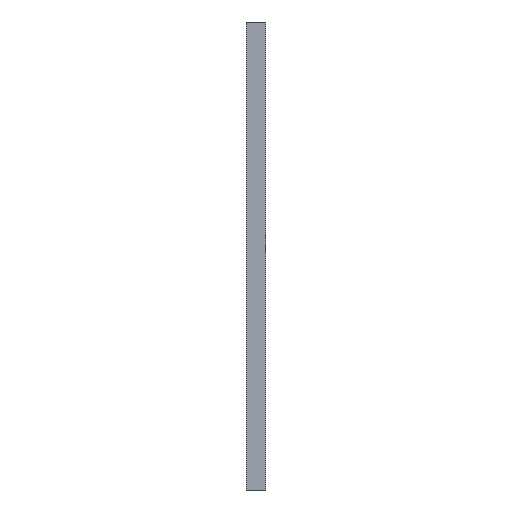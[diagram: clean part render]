
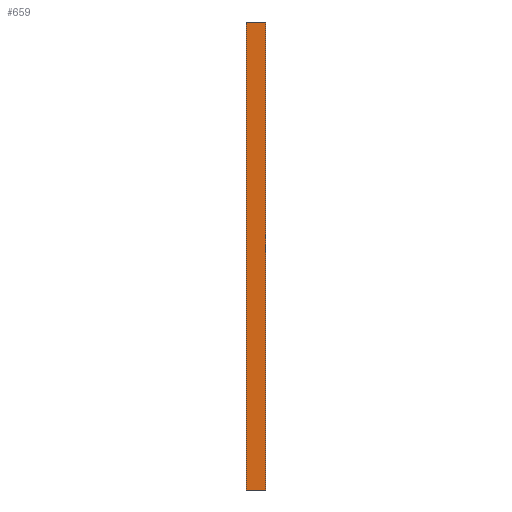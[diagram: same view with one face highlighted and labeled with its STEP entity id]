
A CAD part, left-side view. The second image highlights one B-rep face of the part: STEP entity #659.
In plain terms, the highlighted planar face has unit normal (-1, 0, 0).
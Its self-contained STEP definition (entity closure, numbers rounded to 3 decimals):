
#45 = LINE ( 'NONE', #1010, #138 ) ;
#71 = PLANE ( 'NONE',  #167 ) ;
#138 = VECTOR ( 'NONE', #662, 1000. ) ;
#167 = AXIS2_PLACEMENT_3D ( 'NONE', #249, #420, #1036 ) ;
#180 = VERTEX_POINT ( 'NONE', #754 ) ;
#249 = CARTESIAN_POINT ( 'NONE',  ( -203., -17., -369. ) ) ;
#335 = LINE ( 'NONE', #593, #607 ) ;
#350 = VERTEX_POINT ( 'NONE', #449 ) ;
#405 = CARTESIAN_POINT ( 'NONE',  ( -203., -17., -369. ) ) ;
#420 = DIRECTION ( 'NONE',  ( -1., 0., 0. ) ) ;
#449 = CARTESIAN_POINT ( 'NONE',  ( -203., 0., 40. ) ) ;
#455 = CARTESIAN_POINT ( 'NONE',  ( -203., -17., 40. ) ) ;
#570 = EDGE_CURVE ( 'NONE', #180, #350, #45, .T. ) ;
#582 = EDGE_CURVE ( 'NONE', #929, #913, #843, .T. ) ;
#593 = CARTESIAN_POINT ( 'NONE',  ( -203., -17., 40. ) ) ;
#607 = VECTOR ( 'NONE', #1126, 1000. ) ;
#647 = VECTOR ( 'NONE', #780, 1000. ) ;
#659 = ADVANCED_FACE ( 'NONE', ( #1030 ), #71, .T. ) ;
#662 = DIRECTION ( 'NONE',  ( 0., 0., 1. ) ) ;
#712 = EDGE_LOOP ( 'NONE', ( #1067, #775, #908, #800 ) ) ;
#754 = CARTESIAN_POINT ( 'NONE',  ( -203., 0., -369. ) ) ;
#768 = VECTOR ( 'NONE', #834, 1000. ) ;
#775 = ORIENTED_EDGE ( 'NONE', *, *, #891, .F. ) ;
#780 = DIRECTION ( 'NONE',  ( 0., 0., 1. ) ) ;
#800 = ORIENTED_EDGE ( 'NONE', *, *, #1002, .T. ) ;
#834 = DIRECTION ( 'NONE',  ( 0., 1., 0. ) ) ;
#843 = LINE ( 'NONE', #405, #647 ) ;
#891 = EDGE_CURVE ( 'NONE', #929, #180, #990, .T. ) ;
#908 = ORIENTED_EDGE ( 'NONE', *, *, #582, .T. ) ;
#912 = CARTESIAN_POINT ( 'NONE',  ( -203., -17., -369. ) ) ;
#913 = VERTEX_POINT ( 'NONE', #455 ) ;
#929 = VERTEX_POINT ( 'NONE', #935 ) ;
#935 = CARTESIAN_POINT ( 'NONE',  ( -203., -17., -369. ) ) ;
#990 = LINE ( 'NONE', #912, #768 ) ;
#1002 = EDGE_CURVE ( 'NONE', #913, #350, #335, .T. ) ;
#1010 = CARTESIAN_POINT ( 'NONE',  ( -203., 0., -369. ) ) ;
#1030 = FACE_OUTER_BOUND ( 'NONE', #712, .T. ) ;
#1036 = DIRECTION ( 'NONE',  ( 0., 0., 1. ) ) ;
#1067 = ORIENTED_EDGE ( 'NONE', *, *, #570, .F. ) ;
#1126 = DIRECTION ( 'NONE',  ( 0., 1., 0. ) ) ;
